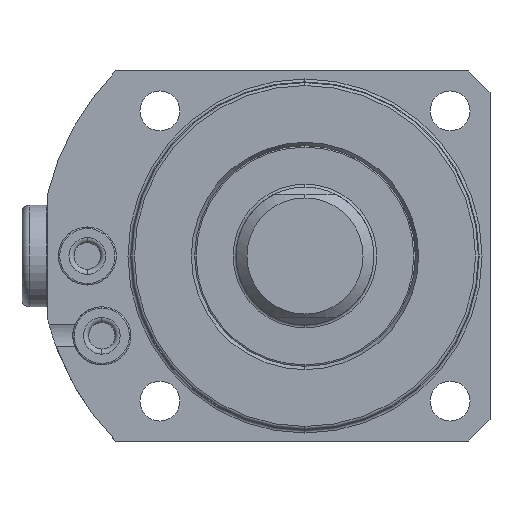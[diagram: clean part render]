
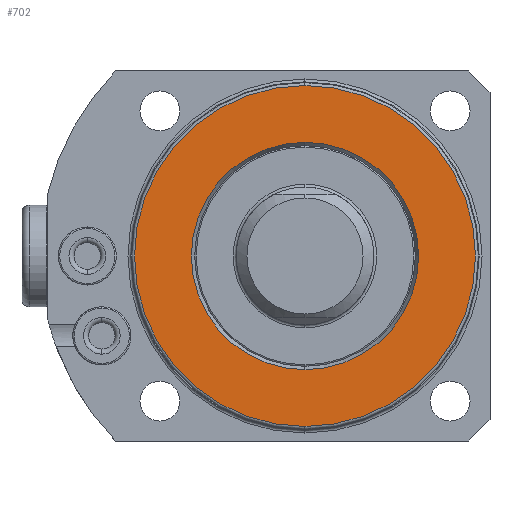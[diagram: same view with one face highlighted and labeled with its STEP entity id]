
A CAD part, front view. The second image highlights one B-rep face of the part: STEP entity #702.
In plain terms, the highlighted planar face has unit normal (0, -1, 0).
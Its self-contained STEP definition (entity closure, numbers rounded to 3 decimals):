
#313=FACE_BOUND('',#1210,.T.);
#314=FACE_BOUND('',#1211,.T.);
#364=PLANE('',#4099);
#702=ADVANCED_FACE('',(#313,#314),#364,.F.);
#1210=EDGE_LOOP('',(#2414,#2415));
#1211=EDGE_LOOP('',(#2416,#2417));
#2414=ORIENTED_EDGE('',*,*,#3172,.F.);
#2415=ORIENTED_EDGE('',*,*,#3322,.F.);
#2416=ORIENTED_EDGE('',*,*,#3177,.T.);
#2417=ORIENTED_EDGE('',*,*,#3321,.T.);
#2760=VERTEX_POINT('',#6230);
#2761=VERTEX_POINT('',#6231);
#2764=VERTEX_POINT('',#6239);
#2765=VERTEX_POINT('',#6241);
#3172=EDGE_CURVE('',#2760,#2761,#3534,.T.);
#3177=EDGE_CURVE('',#2765,#2764,#3538,.T.);
#3321=EDGE_CURVE('',#2764,#2765,#3618,.T.);
#3322=EDGE_CURVE('',#2761,#2760,#3619,.T.);
#3534=CIRCLE('',#3963,23.5);
#3538=CIRCLE('',#3968,15.662);
#3618=CIRCLE('',#4096,15.662);
#3619=CIRCLE('',#4098,23.5);
#3963=AXIS2_PLACEMENT_3D('',#6229,#4918,#4919);
#3968=AXIS2_PLACEMENT_3D('',#6240,#4929,#4930);
#4096=AXIS2_PLACEMENT_3D('',#6605,#5226,#5227);
#4098=AXIS2_PLACEMENT_3D('',#6607,#5230,#5231);
#4099=AXIS2_PLACEMENT_3D('',#6608,#5232,#5233);
#4918=DIRECTION('',(0.,1.,0.));
#4919=DIRECTION('',(0.,0.,1.));
#4929=DIRECTION('',(0.,1.,0.));
#4930=DIRECTION('',(0.,0.,1.));
#5226=DIRECTION('',(0.,1.,0.));
#5227=DIRECTION('',(0.,0.,1.));
#5230=DIRECTION('',(0.,1.,0.));
#5231=DIRECTION('',(0.,0.,1.));
#5232=DIRECTION('',(0.,1.,0.));
#5233=DIRECTION('',(0.,0.,-1.));
#6229=CARTESIAN_POINT('',(0.,39.462,0.));
#6230=CARTESIAN_POINT('',(0.,39.462,23.5));
#6231=CARTESIAN_POINT('',(0.,39.462,-23.5));
#6239=CARTESIAN_POINT('',(0.,39.462,15.662));
#6240=CARTESIAN_POINT('',(0.,39.462,0.));
#6241=CARTESIAN_POINT('',(0.,39.462,-15.662));
#6605=CARTESIAN_POINT('',(0.,39.462,0.));
#6607=CARTESIAN_POINT('',(0.,39.462,0.));
#6608=CARTESIAN_POINT('',(23.5,39.462,0.));
